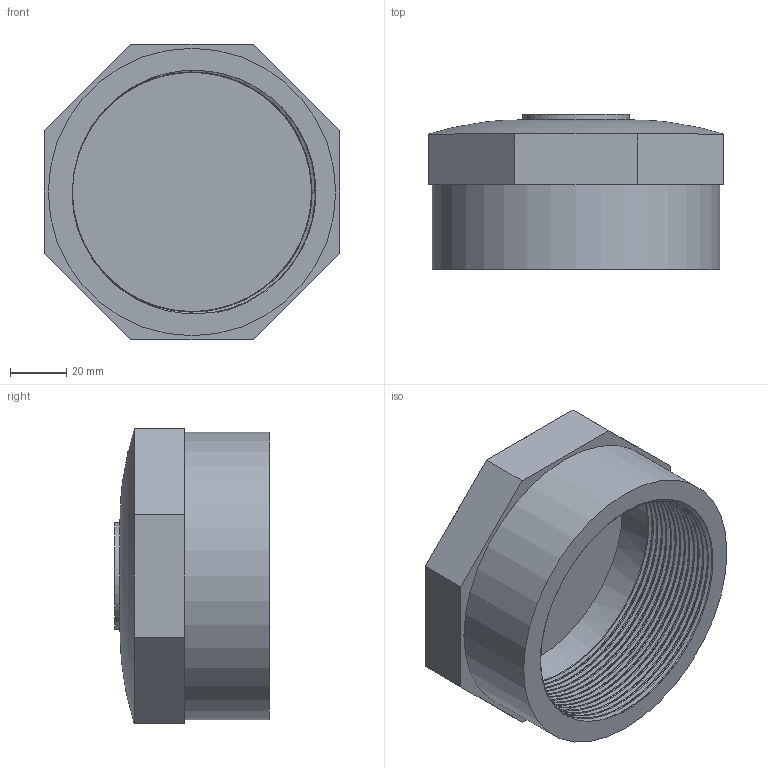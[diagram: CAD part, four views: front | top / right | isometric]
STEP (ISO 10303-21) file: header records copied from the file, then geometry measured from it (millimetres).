
FILE_DESCRIPTION(/* description */ ('PVC calotta filettata BSP'),/* implementation_level */ '2;1');
FILE_NAME(/* name */ 'C:\Users\POLYPIPE\Desktop\DATASET INVENTOR\LIBRERIA EFFAST\RACCORDI 3DxWEB\RER\3D_RERCAE\3D_RERCAE090I.stp',/* time_stamp */ '2018-01-19T15:58:00+01:00',/* author */ ('POLYPIPE'),/* organization */ ('Polypipe Italia s.r.l.'),/* preprocessor_version */ 'ST-DEVELOPER v16.1',/* originating_system */ 'Autodesk Inventor 2016',/* authorisation */ '');
FILE_SCHEMA (('CONFIG_CONTROL_DESIGN'));
Length unit declared in the file: millimetre
Products named in the file (1): 3D_RERCAE
Bounding box: 105 x 55 x 105 mm (x, y, z)
Volume: 184465.2 mm3; surface area: 52408.8 mm2
Topology: 1 solids, 1 shells, 30 faces, 68 edges, 42 vertices
Faces by surface type: plane 21, bspline 6, cylinder 3
Full cylindrical faces by diameter (mm): 38 x1, 84.926 x1, 102 x1
Entity records: 6096 total; most frequent: CARTESIAN_POINT 5447, ORIENTED_EDGE 128, DIRECTION 119, EDGE_CURVE 64, AXIS2_PLACEMENT_3D 42, VERTEX_POINT 41, LINE 35, VECTOR 35
